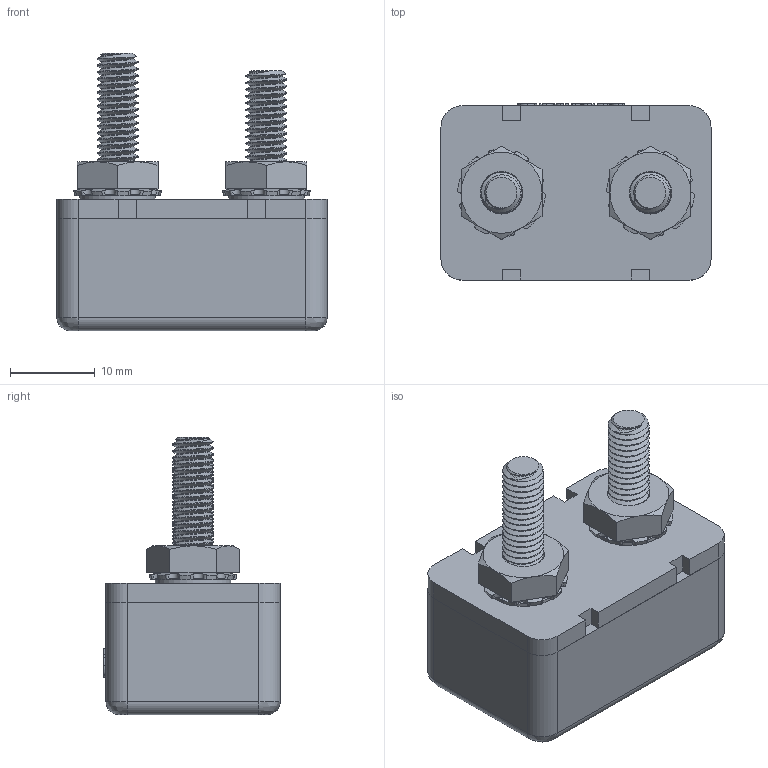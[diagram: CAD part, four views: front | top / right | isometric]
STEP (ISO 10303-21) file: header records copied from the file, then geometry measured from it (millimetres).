
FILE_DESCRIPTION(/* description */ (''),/* implementation_level */ '2;1');
FILE_NAME(/* name */ 'C:\Users\Hani\Desktop\work\ACB-12-N\ACB-12-N.stp',/* time_stamp */ '2021-08-06T13:25:18-07:00',/* author */ ('Hani'),/* organization */ (''),/* preprocessor_version */ 'ST-DEVELOPER v17',/* originating_system */ 'Autodesk Inventor 2019',/* authorisation */ '');
FILE_SCHEMA (('AUTOMOTIVE_DESIGN { 1 0 10303 214 3 1 1 }'));
Length unit declared in the file: inch
Products named in the file (4): ACBP-V; ACBP-V_1; THREADED ROD; HEX NUT WITH TOOTH WASHER
Assembly tree (5 placements, depth 2):
  ACBP-V
    ACBP-V_1
    THREADED ROD  x2
    HEX NUT WITH TOOTH WASHER  x2
Bounding box: 31.8 x 20.76 x 32.64 mm (x, y, z)
Volume: 11022.4 mm3; surface area: 6045.7 mm2
Topology: 8 solids, 8 shells, 446 faces, 1234 edges, 820 vertices
Faces by surface type: cylinder 156, plane 125, bspline 119, cone 46
Full cylindrical faces by diameter (mm): 3.795 x46, 3.967 x6, 4.826 x52, 6.413 x2, 8.89 x2
Entity records: 16138 total; most frequent: CARTESIAN_POINT 8669, ORIENTED_EDGE 1724, DIRECTION 1116, EDGE_CURVE 862, VERTEX_POINT 572, LINE 400, VECTOR 400, AXIS2_PLACEMENT_3D 358
